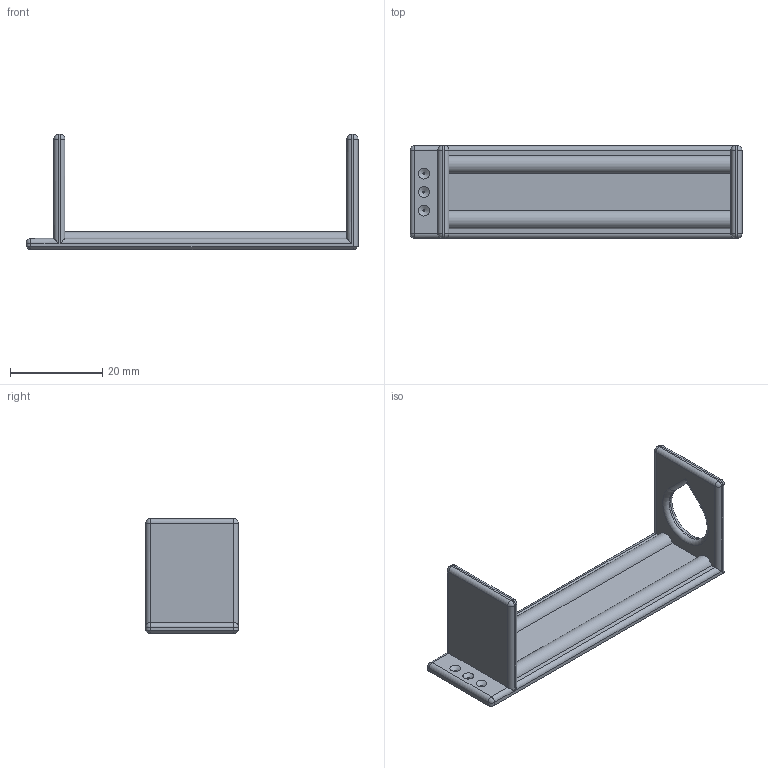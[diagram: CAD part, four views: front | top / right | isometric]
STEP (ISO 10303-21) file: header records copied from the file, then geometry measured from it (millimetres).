
FILE_DESCRIPTION(('Open CASCADE Model'),'2;1');
FILE_NAME('Open CASCADE Shape Model','2026-10-12T20:43:45',('Author'),( 'Open CASCADE'),'Open CASCADE STEP processor 8.0','build123d', 'Unknown');
FILE_SCHEMA(('AUTOMOTIVE_DESIGN { 1 0 10303 214 1 1 1 1 }'));
Length unit declared in the file: millimetre
Products named in the file (1): COMPOUND
Bounding box: 71.8 x 20 x 24.9 mm (x, y, z)
Volume: 5696.1 mm3; surface area: 5054 mm2
Topology: 1 solids, 1 shells, 72 faces, 161 edges, 84 vertices
Faces by surface type: cylinder 30, plane 23, sphere 10, cone 7, torus 2
Entity records: 3863 total; most frequent: CARTESIAN_POINT 840, DIRECTION 554, ORIENTED_EDGE 302, PCURVE 302, DEFINITIONAL_REPRESENTATION 302, LINE 269, VECTOR 269, EDGE_CURVE 151
